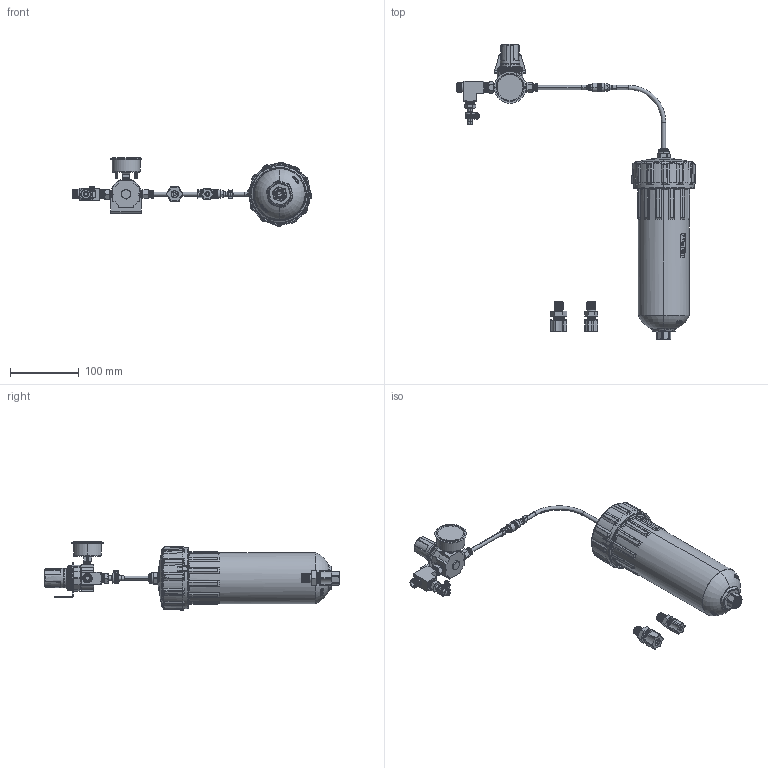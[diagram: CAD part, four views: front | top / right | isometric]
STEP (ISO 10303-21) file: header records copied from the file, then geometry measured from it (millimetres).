
FILE_DESCRIPTION (( 'STEP AP214' ), '1' );
FILE_NAME ('NORDSONEFD-7012440 RETAINER SYS O 20OZ CL BL 100PSI 7BAR.STEP', '2019-01-22T16:42:10', ( '' ), ( '' ), 'SwSTEP 2.0', 'SolidWorks 2018', '' );
FILE_SCHEMA (( 'AUTOMOTIVE_DESIGN' ));
Length unit declared in the file: inch
Products named in the file (9): NORDSONEFD-7012440 RETAINER SYS O 20OZ CL BL 100PSI 7BAR_7013025 HOSE 6MM X 10 W SHUTOFF VALVE; NORDSONEFD-7012440 RETAINER SYS O 20OZ CL BL 100PSI 7BAR; NORDSONEFD-7012440 RETAINER SYS O 20OZ CL BL 100PSI 7BAR_7012532 RETAINER CAP O 20 32OZ BL; NORDSONEFD-7012440 RETAINER SYS O 20OZ CL BL 100PSI 7BAR_7017014 FIT 1 4MPT X 1 4 COMP BLK POLY; NORDSONEFD-7012440 RETAINER SYS O 20OZ CL BL 100PSI 7BAR_7013860 RETAINER BODY O 20OZ CL; NORDSONEFD-7012440 RETAINER SYS O 20OZ CL BL 100PSI 7BAR_7013024 CARTRIDGE SYS REGULATOR 100PSI; NORDSONEFD-7012440 RETAINER SYS O 20OZ CL BL 100PSI 7BAR_7014640 PISTON O 20 32OZ WH WIPER; NORDSONEFD-7012440 RETAINER SYS O 20OZ CL BL 100PSI 7BAR_7015195 CARTRIDGE O 20OZ CL IM; NORDSONEFD-7012440 RETAINER SYS O 20OZ CL BL 100PSI 7BAR_7017020 FIT 1 4MPT X 3 8 COMP BLK POLY
Assembly tree (8 placements, depth 2):
  NORDSONEFD-7012440 RETAINER SYS O 20OZ CL BL 100PSI 7BAR
    NORDSONEFD-7012440 RETAINER SYS O 20OZ CL BL 100PSI 7BAR_7013860 RETAINER BODY O 20OZ CL
    NORDSONEFD-7012440 RETAINER SYS O 20OZ CL BL 100PSI 7BAR_7015195 CARTRIDGE O 20OZ CL IM
    NORDSONEFD-7012440 RETAINER SYS O 20OZ CL BL 100PSI 7BAR_7014640 PISTON O 20 32OZ WH WIPER
    NORDSONEFD-7012440 RETAINER SYS O 20OZ CL BL 100PSI 7BAR_7012532 RETAINER CAP O 20 32OZ BL
    NORDSONEFD-7012440 RETAINER SYS O 20OZ CL BL 100PSI 7BAR_7013024 CARTRIDGE SYS REGULATOR 100PSI
    NORDSONEFD-7012440 RETAINER SYS O 20OZ CL BL 100PSI 7BAR_7017020 FIT 1 4MPT X 3 8 COMP BLK POLY
    NORDSONEFD-7012440 RETAINER SYS O 20OZ CL BL 100PSI 7BAR_7017014 FIT 1 4MPT X 1 4 COMP BLK POLY
    NORDSONEFD-7012440 RETAINER SYS O 20OZ CL BL 100PSI 7BAR_7013025 HOSE 6MM X 10 W SHUTOFF VALVE
Bounding box: 348.93 x 430.23 x 99.44 mm (x, y, z)
Volume: 530266 mm3; surface area: 333962.4 mm2
Topology: 9 solids, 9 shells, 5135 faces, 13190 edges, 8130 vertices
Faces by surface type: plane 1457, bspline 1405, cylinder 943, cone 669, torus 525, sphere 136
Entity records: 237928 total; most frequent: CARTESIAN_POINT 121318, ORIENTED_EDGE 26102, DIRECTION 19216, EDGE_CURVE 13051, VERTEX_POINT 8130, AXIS2_PLACEMENT_3D 7534, EDGE_LOOP 5437, ADVANCED_FACE 5135
